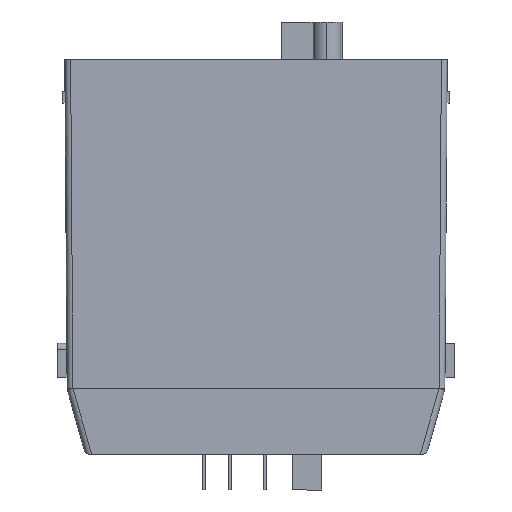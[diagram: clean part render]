
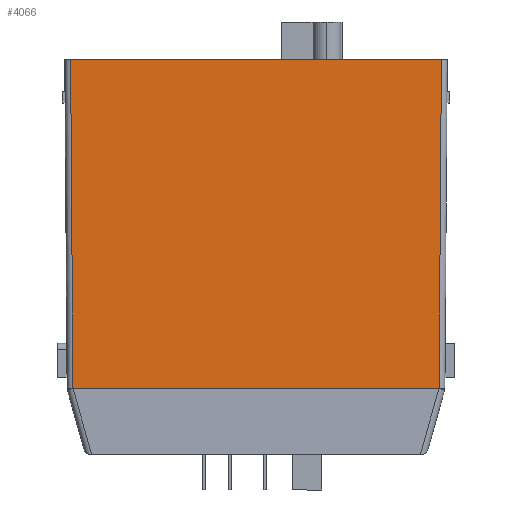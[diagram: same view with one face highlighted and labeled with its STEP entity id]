
A CAD part, left-side view. The second image highlights one B-rep face of the part: STEP entity #4066.
In plain terms, the highlighted planar face has unit normal (-1, 0, 0.004).
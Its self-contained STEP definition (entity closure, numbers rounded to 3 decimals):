
#60 = DIRECTION ( 'NONE',  ( 0., 1., 0. ) ) ;
#103 = CARTESIAN_POINT ( 'NONE',  ( 0.208, 70., 73.7 ) ) ;
#154 = DIRECTION ( 'NONE',  ( 0., -1., 0. ) ) ;
#319 = DIRECTION ( 'NONE',  ( -0.004, 0., -1. ) ) ;
#512 = LINE ( 'NONE', #103, #4342 ) ;
#546 = VECTOR ( 'NONE', #4286, 1000. ) ;
#632 = LINE ( 'NONE', #2297, #546 ) ;
#646 = EDGE_CURVE ( 'NONE', #3787, #4742, #3768, .T. ) ;
#695 = VERTEX_POINT ( 'NONE', #1033 ) ;
#978 = EDGE_CURVE ( 'NONE', #695, #4742, #1025, .T. ) ;
#997 = CARTESIAN_POINT ( 'NONE',  ( 0.208, 65.75, 73.73 ) ) ;
#1025 = LINE ( 'NONE', #997, #3693 ) ;
#1033 = CARTESIAN_POINT ( 'NONE',  ( 0.208, 65.75, 73.7 ) ) ;
#1052 = DIRECTION ( 'NONE',  ( -0.004, -0.007, -1. ) ) ;
#1070 = CARTESIAN_POINT ( 'NONE',  ( 0., 2.65, 17.451 ) ) ;
#1606 = ORIENTED_EDGE ( 'NONE', *, *, #3077, .F. ) ;
#1995 = VERTEX_POINT ( 'NONE', #3141 ) ;
#2297 = CARTESIAN_POINT ( 'NONE',  ( 0.206, 2.253, 73.219 ) ) ;
#3077 = EDGE_CURVE ( 'NONE', #695, #1995, #512, .T. ) ;
#3130 = EDGE_LOOP ( 'NONE', ( #4899, #3909, #3515, #1606 ) ) ;
#3141 = CARTESIAN_POINT ( 'NONE',  ( 0.208, 2.25, 73.7 ) ) ;
#3400 = EDGE_CURVE ( 'NONE', #3787, #1995, #632, .T. ) ;
#3515 = ORIENTED_EDGE ( 'NONE', *, *, #3400, .T. ) ;
#3538 = CARTESIAN_POINT ( 'NONE',  ( 0., 65.35, 17.451 ) ) ;
#3580 = PLANE ( 'NONE',  #5213 ) ;
#3693 = VECTOR ( 'NONE', #1052, 1000. ) ;
#3768 = LINE ( 'NONE', #4988, #4647 ) ;
#3787 = VERTEX_POINT ( 'NONE', #1070 ) ;
#3909 = ORIENTED_EDGE ( 'NONE', *, *, #646, .F. ) ;
#4016 = DIRECTION ( 'NONE',  ( 1., 0., -0.004 ) ) ;
#4066 = ADVANCED_FACE ( 'NONE', ( #5172 ), #3580, .F. ) ;
#4286 = DIRECTION ( 'NONE',  ( 0.004, -0.007, 1. ) ) ;
#4342 = VECTOR ( 'NONE', #154, 1000. ) ;
#4432 = CARTESIAN_POINT ( 'NONE',  ( 0.208, 70., 73.7 ) ) ;
#4647 = VECTOR ( 'NONE', #60, 1000. ) ;
#4742 = VERTEX_POINT ( 'NONE', #3538 ) ;
#4899 = ORIENTED_EDGE ( 'NONE', *, *, #978, .T. ) ;
#4988 = CARTESIAN_POINT ( 'NONE',  ( 0., 0., 17.451 ) ) ;
#5172 = FACE_OUTER_BOUND ( 'NONE', #3130, .T. ) ;
#5213 = AXIS2_PLACEMENT_3D ( 'NONE', #4432, #4016, #319 ) ;
